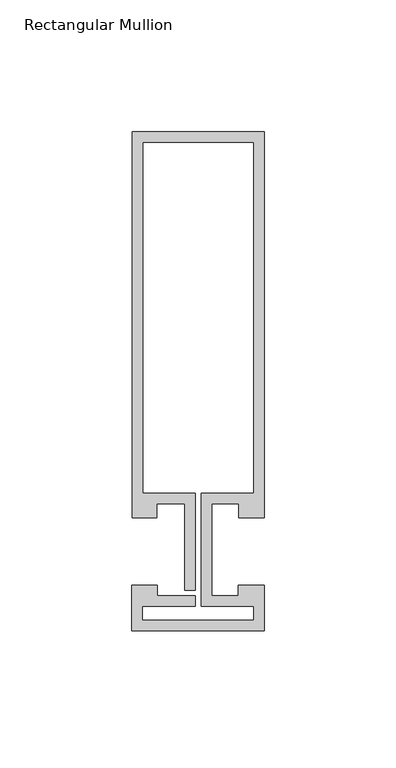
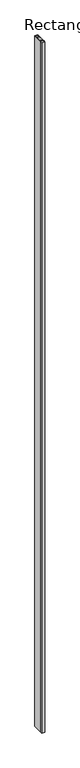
"""IFC4 building model written with IfcOpenShell, lengths in millimetres: member geometry, Rectangular Mullion : Reynaers_CW-50_Transom-Transom_146.5mm_Facecap-02B."""

from ifc_helpers import new_model, si_unit, frame, origin, place, context, project, spatial, polyline, outline, extrude, source, transform, mapped, element, save


def rectangular_mullion_f3bbb93a(model_context):
    return source(origin(), model_context, "Body", "SweptSolid", [
        extrude(outline(polyline([(25.1995941, -12.7331291), (25.1995941, -30.0331291), (-24.994845, -30.0331291), (-24.994845, -12.7331291), (-15.2996495, -12.7331291), (-15.2996495, -16.7331291), (-0.9004059, -16.7331291), (-0.9004059, -20.7331291), (-20.994845, -20.7331291), (-20.994845, -26.0331291), (21.1995941, -26.0331291), (21.1995941, -20.7331291), (1.2995941, -20.7331291), (1.2995941, 22.1331291), (21.1995941, 22.1331291), (21.1995941, 155.2331291), (-20.8004059, 155.2331291), (-20.8004059, 22.1331291), (-0.9004059, 22.1331291), (-0.9004059, -14.7331291), (-4.9004059, -14.7331291), (-4.9004059, 18.1331291), (-15.499, 18.1331291), (-15.499, 12.7331291), (-24.8004059, 12.7331291), (-24.8004059, 159.2331291), (25.1995941, 159.2331291), (25.1995941, 12.7331291), (15.499, 12.7331291), (15.499, 18.1331291), (5.2995941, 18.1331291), (5.2995941, -16.7331291), (15.2996495, -16.7331291), (15.2996495, -12.7331291), (25.1995941, -12.7331291)])), frame((0.0, 0.0, -12000.0), z_axis=(0.0, 0.0, 1.0), x_axis=(1.0, 0.0, 0.0)), (0.0, 0.0, 1.0), 12000.0),
    ])


if __name__ == "__main__":
    model = new_model("IFC4")
    model_context = context("Model", 3, world=origin())
    ifc_project = project(units=[si_unit("LENGTHUNIT", "METRE", prefix="MILLI")], contexts=[model_context])
    site = spatial("IfcSite", under=ifc_project)
    building = spatial("IfcBuilding", under=site)
    placement = place(None, origin())
    rectangular_mullion_shape = rectangular_mullion_f3bbb93a(model_context)
    element("IfcMember", 1, ObjectType="Rectangular Mullion : Reynaers_CW-50_Transom-Transom_146.5mm_Facecap-02B", at=placement, inside=building, context=model_context, shape_type="MappedRepresentation", body=[
        mapped(rectangular_mullion_shape, transform((0.0, 0.0, 0.0), x_axis=(1.0, 0.0, 0.0), y_axis=(0.0, 1.0, 0.0), z_axis=(0.0, 0.0, 1.0))),
    ])
    save(model, "model.ifc")
